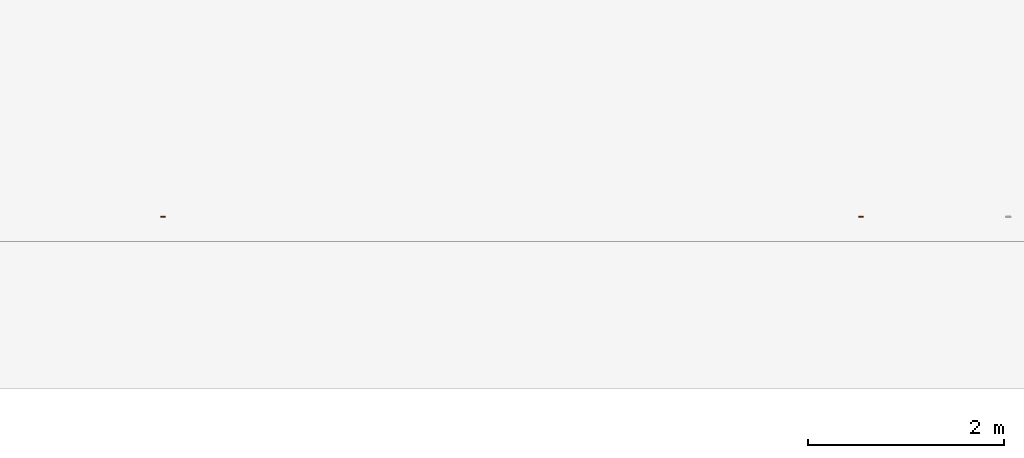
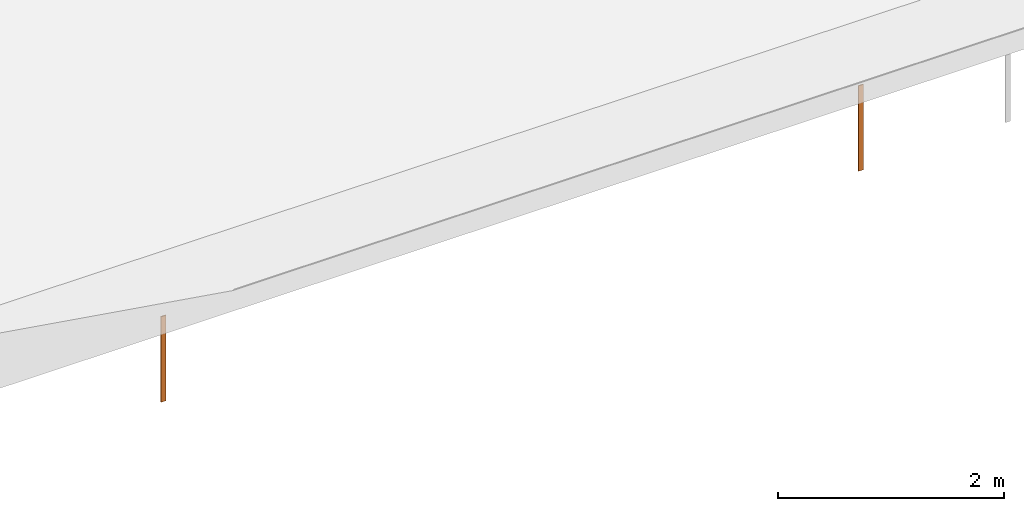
# One storey, part 6 of 7: 2 proxies.
"""IFC2X3 building model written with IfcOpenShell, lengths in millimetres."""

from ifc_helpers import new_model, entity, si_unit, converted_unit, derived_unit, direction, frame, frame_2d, origin, place, context, subcontext, project, spatial, rectangle, extrude, source, transform, mapped, material, type_object, type_shapes, element, save


model = new_model("IFC2X3")

# Units and contexts
model_context = context("Model", 3, precision=0.01, world=origin(), true_north=direction((0.7716245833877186, 0.6360782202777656)))
body_context = subcontext(model_context, "Body", "Model", "MODEL_VIEW")
ifc_project = project(units=[si_unit("LENGTHUNIT", "METRE", prefix="MILLI"), si_unit("AREAUNIT", "SQUARE_METRE"), converted_unit("PLANEANGLEUNIT", "DEGREE", entity("IfcPlaneAngleMeasure", 0.017453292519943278), si_unit("PLANEANGLEUNIT", "RADIAN"), dimensions=[0, 0, 0, 0, 0, 0, 0]), derived_unit("THERMALTRANSMITTANCEUNIT", [(si_unit("MASSUNIT", "GRAM", prefix="KILO"), 1), (si_unit("THERMODYNAMICTEMPERATUREUNIT", "KELVIN"), -1), (si_unit("TIMEUNIT", "SECOND"), -3)])], contexts=[model_context])

# Site, building, storey
site_placement = place(None, origin())
site = spatial("IfcSite", under=ifc_project, at=site_placement, Name="Default", CompositionType="ELEMENT")
building_placement = place(site_placement, origin())
building = spatial("IfcBuilding", under=site, at=building_placement, CompositionType="ELEMENT")
storey_placement = place(building_placement, frame((0.0, 0.0, 37100.0)))
storey = spatial("IfcBuildingStorey", under=building, at=storey_placement, Name="PLAN 03 (EKS. TAK)", CompositionType="ELEMENT", Elevation=37100.0)

# Proxies
ifc_material = material(Name="Aluminum")
building_element_proxy_type = type_object("IfcBuildingElementProxyType", Name="Fasade profil, VER:Fasade profil 100x50", PredefinedType="NOTDEFINED", material=ifc_material)
shared_shape = source(origin(), body_context, "Body", "SweptSolid", [
    extrude(rectangle(XDim=50.000000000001, YDim=10.000000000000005, at=frame_2d((-2.1316282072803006e-14, 0.0), x_axis=(1.0, 0.0))), frame((25.0, -5.0, 0.0), z_axis=(0.0, 0.0, 1.0), x_axis=(-1.0, 0.0, 0.0)), (0.0, 0.0, 1.0), 922.6087503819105),
])
type_shapes(building_element_proxy_type, [shared_shape])
for number, where, name in (
    (1, (260347.5564872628, 53315.25555007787, -510.0), "Fasade profil, VER:Fasade profil 100x50"),
    (2, (267464.86250274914, 53315.25555007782, -510.0), "Fasade profil, VER:Fasade profil 100x50"),
):
    element("IfcBuildingElementProxy", number, at=place(storey_placement, frame(where)), inside=storey, type_object=building_element_proxy_type, material=ifc_material, Name=name, ObjectType="Fasade profil, VER:Fasade profil 100x50", context=body_context, shape_type="MappedRepresentation", body=[
        mapped(shared_shape, transform((0.0, 0.0, 0.0), scale=1.0)),
    ])

save(model, "model.ifc")
